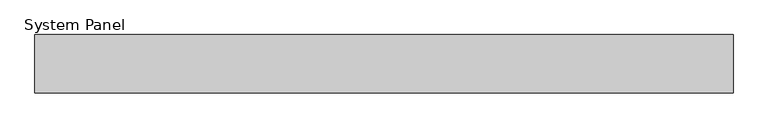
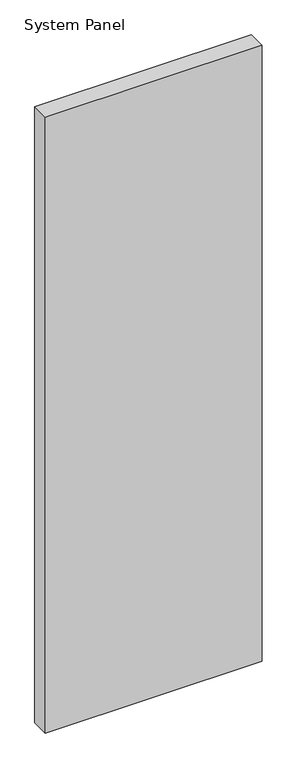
"""IFC4 building model written with IfcOpenShell, lengths in millimetres: plate geometry, System Panel : Equitilt 100mm Vertical - Plain RHEA - MW."""

from ifc_helpers import new_model, si_unit, origin, origin_with_axes, place, context, project, spatial, polyline, outline, extrude, source, transform, mapped, element, save


def system_panel_78934fff(model_context):
    return source(origin(), model_context, "Body", "SweptSolid", [
        extrude(outline(polyline([(600.0, 0.0), (-600.0, 0.0), (-600.0, 100.0), (600.0, 100.0), (600.0, 0.0)])), origin_with_axes(), (0.0, 0.0, 1.0), 3600.0),
    ])


if __name__ == "__main__":
    model = new_model("IFC4")
    model_context = context("Model", 3, world=origin())
    ifc_project = project(units=[si_unit("LENGTHUNIT", "METRE", prefix="MILLI")], contexts=[model_context])
    site = spatial("IfcSite", under=ifc_project)
    building = spatial("IfcBuilding", under=site)
    placement = place(None, origin())
    system_panel_shape = system_panel_78934fff(model_context)
    element("IfcPlate", 1, ObjectType="System Panel : Equitilt 100mm Vertical - Plain RHEA - MW", at=placement, inside=building, context=model_context, shape_type="MappedRepresentation", body=[
        mapped(system_panel_shape, transform((0.0, 0.0, 0.0), x_axis=(1.0, 0.0, 0.0), y_axis=(0.0, 1.0, 0.0), z_axis=(0.0, 0.0, 1.0))),
    ])
    save(model, "model.ifc")
